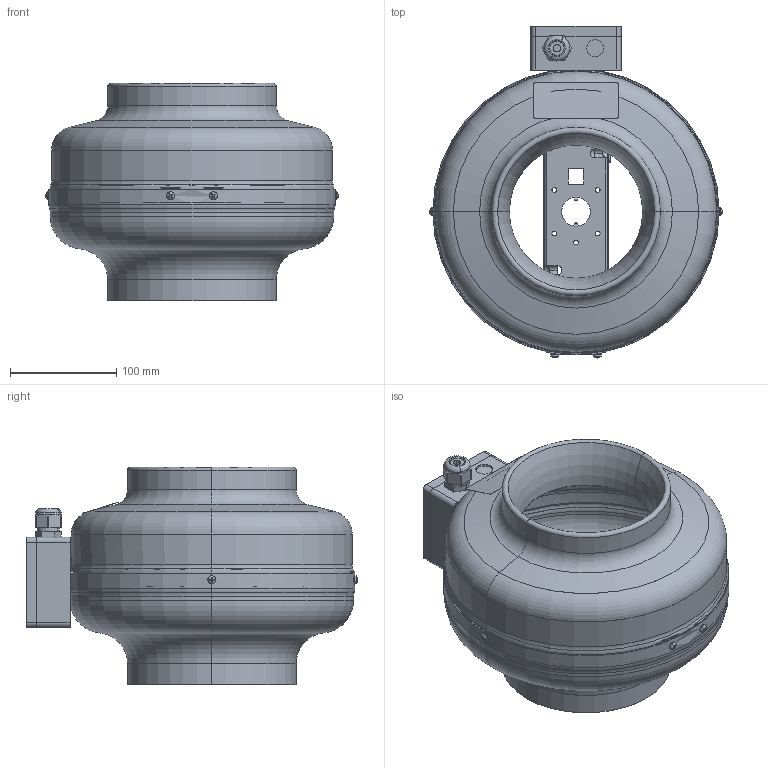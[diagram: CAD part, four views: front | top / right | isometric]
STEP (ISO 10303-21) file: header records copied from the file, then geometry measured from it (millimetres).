
FILE_DESCRIPTION (( 'STEP AP203' ), '1' );
FILE_NAME ('134986-00_RS16010.STEP', '2015-12-18T12:57:50', ( '' ), ( '' ), 'SwSTEP 2.0', 'SolidWorks 2012', '' );
FILE_SCHEMA (( 'CONFIG_CONTROL_DESIGN' ));
Length unit declared in the file: millimetre
Products named in the file (1): 134986-00_RS16010
Bounding box: 275.68 x 312.91 x 205 mm (x, y, z)
Surface area: 460086.5 mm2 (no closed solid volume)
Topology: 0 solids, 16 shells, 277 faces, 1134 edges, 843 vertices
Faces by surface type: cylinder 119, plane 84, torus 56, cone 9, sphere 7, bspline 2
Entity records: 13514 total; most frequent: CARTESIAN_POINT 4237, DIRECTION 2020, ORIENTED_EDGE 1677, EDGE_CURVE 1120, VERTEX_POINT 836, AXIS2_PLACEMENT_3D 812, CIRCLE 536, LINE 396
